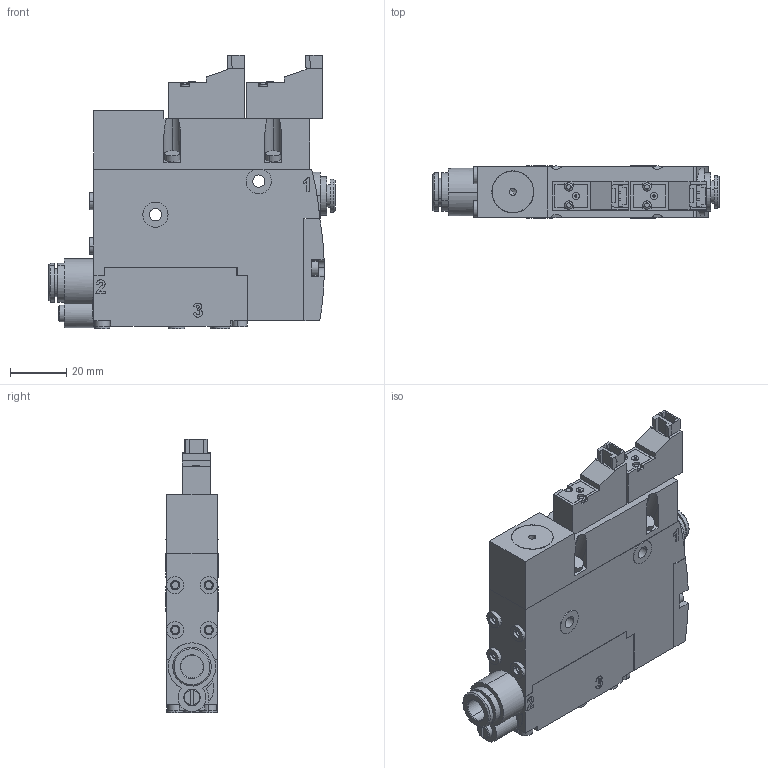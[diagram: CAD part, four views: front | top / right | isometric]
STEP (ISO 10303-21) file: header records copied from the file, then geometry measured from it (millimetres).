
FILE_DESCRIPTION(('STEP AP214'),'1');
FILE_NAME('10_02_02_04134.stp','2020-10-24T00:39:37',('TraceParts'),('TraceParts S.A.'),'Spatial InterOp 3D',' ',' ');
FILE_SCHEMA(('AUTOMOTIVE_DESIGN { 1 0 10303 214 1 1 1 1 }'));
Length unit declared in the file: millimetre
Products named in the file (1): 10_02_02_04134_1
Bounding box: 102.3 x 18.6 x 97.75 mm (x, y, z)
Volume: 117485.6 mm3; surface area: 38623.1 mm2
Topology: 10 solids, 10 shells, 682 faces, 1672 edges, 1094 vertices
Faces by surface type: plane 344, cylinder 254, bspline 66, cone 18
Entity records: 28385 total; most frequent: CARTESIAN_POINT 6749, ORIENTED_EDGE 3340, DIRECTION 3274, EDGE_CURVE 1670, AXIS2_PLACEMENT_3D 1147, VERTEX_POINT 1094, LINE 980, VECTOR 980
